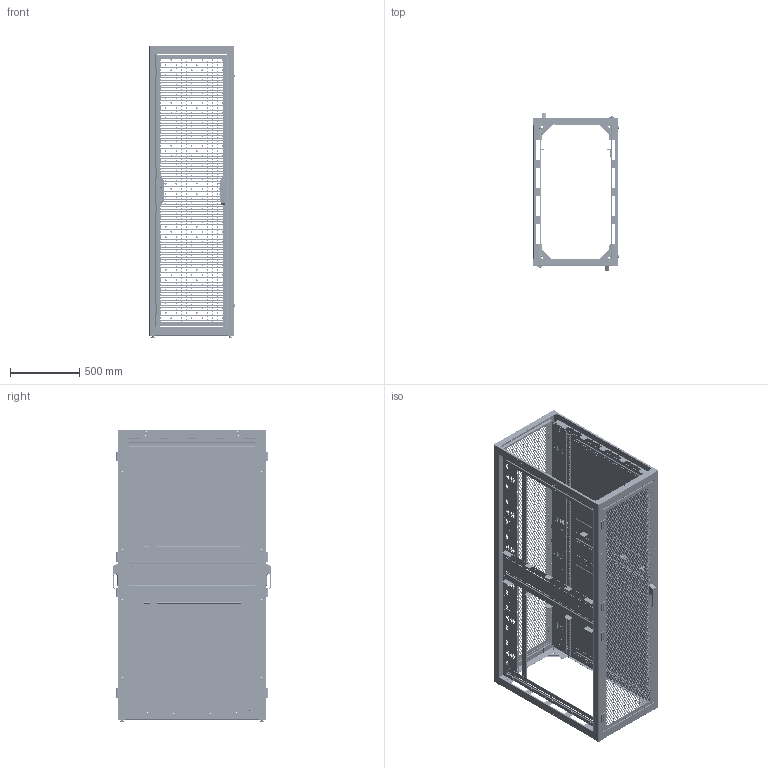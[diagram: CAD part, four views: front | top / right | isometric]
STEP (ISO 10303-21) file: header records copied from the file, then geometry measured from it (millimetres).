
FILE_DESCRIPTION( ( 'Unknown' ), '1' );
FILE_NAME( 'Q:/WEB DRAWINGS/STEP/CLC1B42.stp', 'Unknown', ( 'Unknown' ), ( 'Unknown' ), 'PSStep 16.0.42', 'Unknown', ' ' );
FILE_SCHEMA( ( 'AUTOMOTIVE_DESIGN { 1 0 10303 214 1 1 1 1 }' ) );
Length unit declared in the file: millimetre
Products named in the file (49): HNG14615; HNG14615-2; HNG14615-1; HNG14615-3; HNG14615-4; COM57083-42; STD26020; COM57073-42; NTS18063; NTS18063-oa0; NTS18063-oa1; NTS18063-oa2; PIN17615; PIN17615-oa3; PIN17615-oa4; PIN17615-oa5; std26093; COM57074-42; COM57077-42; COM56869-2; COM57078-1R; COM57078-1L; LOC13394; LOC13394_Handle; LOC13418; COM57093-1; CLCVD44; COM56884; LOC13394_Screw; STR22104_34,5LG; CLCF244442; FET07696; COM57075; COM57076; CLCSP42; LOC13360; Assem1; COM56872-3; COM56877-1L; COM56877-1R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
Assembly tree (84 placements, depth 4):
  Assem1
    COM56872-3  x2
    COM56877-1L  x2
    COM56877-1R  x2
    SCS19496  x2
    WAF25030  x2
    NTS16535  x2
    COM56942-44  x2
    CLCF244442
      FET07696  x4
      COM57075  x4
      COM57076  x4
      COM57073-42
        NTS18063
        NTS18063-oa0
        NTS18063-oa1
        NTS18063-oa2
        PIN17615
        PIN17615-oa3
        PIN17615-oa4
        PIN17615-oa5
        std26093  x2
        COM57073-42
      COM57074-42
        std26093  x4
        COM57074-42
      COM57077-42  x2
        COM56869-2
        COM57078-1R
        COM57078-1L
    CLCSP42
      LOC13360  x4
      COM57083-42
        STD26020  x2
        COM57083-42
    CLCVD44  x2
      COM56884
      LOC13394_Screw
      STR22104_34,5LG
      LOC13394
        LOC13394_Handle
        LOC13394_Handle
        LOC13418
      COM57093-1
        STD26020  x2
        COM57093-1
      HNG14615
        HNG14615-2  x2
        HNG14615-1  x2
        HNG14615-3
        HNG14615-4
Bounding box: 612.7 x 1143.58 x 2108.76 mm (x, y, z)
Volume: 14053158.3 mm3; surface area: 16468489.7 mm2
Topology: 125 solids, 127 shells, 21970 faces, 61700 edges, 40656 vertices
Faces by surface type: plane 13184, cylinder 8050, bspline 336, torus 194, cone 102, sphere 60, extrusion 44
Full cylindrical faces by diameter (mm): 3.5 x6, 4.394 x32, 4.5 x4, 4.775 x6, 4.826 x4, 4.976 x2, 5 x2, 5.08 x4, 5.105 x96, 5.537 x16, 5.556 x10, 5.842 x2, 6 x16, 6.1 x16, 6.2 x32, 6.35 x48, 6.411 x4, 7.137 x8, 7.163 x2, 7.938 x4, 9.525 x40, 9.8 x4, 9.804 x6, 9.9 x2, 9.95 x32, 10 x6, 10.312 x16, 11.049 x4, 11.506 x4, 11.684 x4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
Entity records: 399225 total; most frequent: CARTESIAN_POINT 64339, ORIENTED_EDGE 54752, DIRECTION 53418, EDGE_CURVE 27376, VECTOR 19442, LINE 19420, VERTEX_POINT 18154, AXIS2_PLACEMENT_3D 16988
